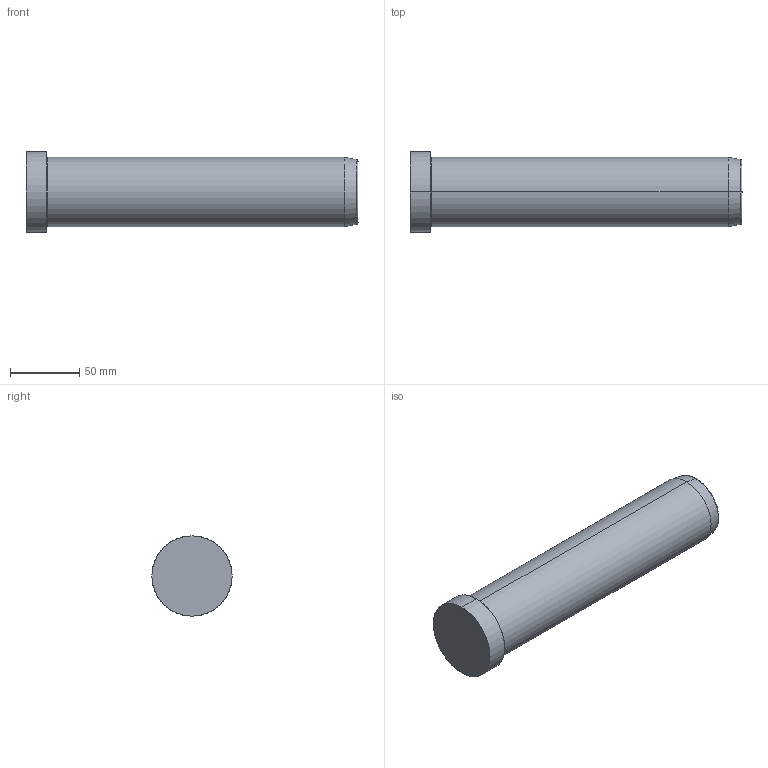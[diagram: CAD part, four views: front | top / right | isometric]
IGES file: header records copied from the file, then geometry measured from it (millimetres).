
Start section: SolidWorks IGES FILE using analytic representation for surfaces
Global section: file name: D:\zzzzz\Delta\D01 D\50\D01 D - 50x240.IGS; native system: SolidWorks 2004 by SolidWorks Corporation; preprocessor: Version 5.3; author: Hkn; date: 080327.145755; units: millimetre
Bounding box: 240 x 58 x 58 mm (x, y, z)
Surface area: 43096.9 mm2 (no closed solid volume)
Topology: 0 solids, 0 shells, 14 faces, 424 edges, 424 vertices
Faces by surface type: revolution 8, bspline 6
